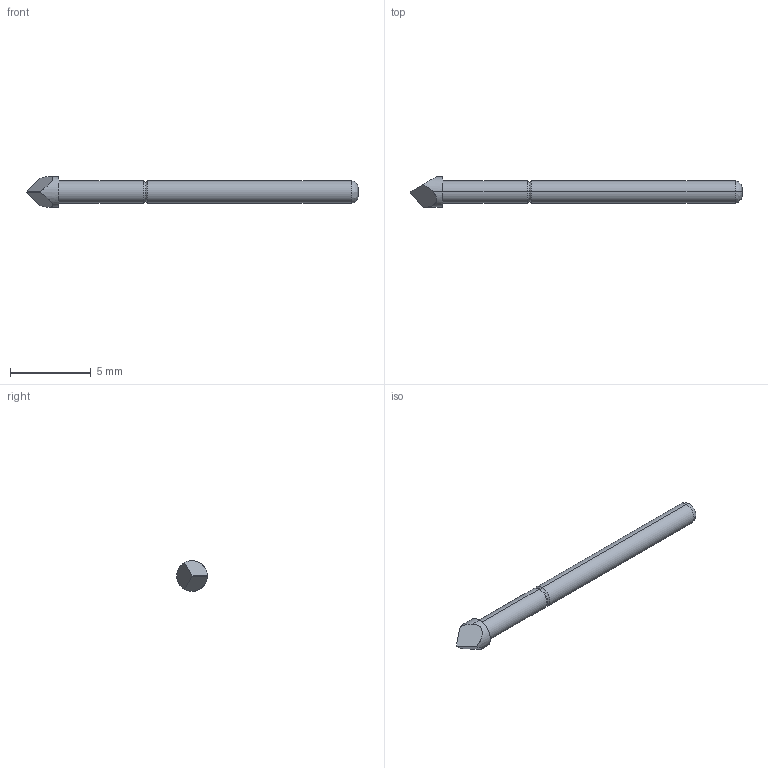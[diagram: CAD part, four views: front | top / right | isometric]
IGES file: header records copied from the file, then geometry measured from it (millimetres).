
Start section: SolidWorks IGES file using analytic representation for surfaces
Global section: file name: Z:\probe solid model mockups\Solidworks models\IGES Files\EPA-2\EPA-2T Full.IGS; native system: SolidWorks 2006 by SolidWorks Corporation; preprocessor: SolidWorks 2006 by SolidWorks Corporation; author: tsakatani; date: 071220.162448; units: inch
Bounding box: 20.57 x 1.91 x 1.91 mm (x, y, z)
Surface area: 91.7 mm2 (no closed solid volume)
Topology: 0 solids, 0 shells, 17 faces, 164 edges, 164 vertices
Faces by surface type: bspline 11, revolution 6
